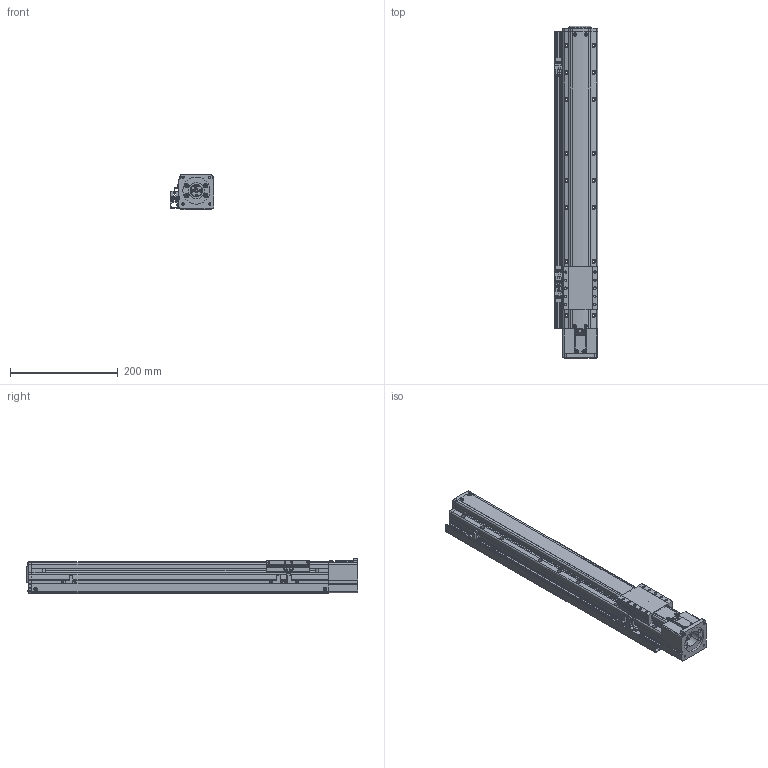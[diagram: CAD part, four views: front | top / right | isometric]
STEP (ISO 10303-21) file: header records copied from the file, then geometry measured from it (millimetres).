
FILE_DESCRIPTION(('STEP AP214'),'1');
FILE_NAME('Z:/Web/3D/PSA65/STP/PSA65-400 (3D)/PSA65ㅁㅁ-400S+3SL.stp','2014-06-25T04:53:19',(' '),(' '),'Spatial InterOp 3D',' ',' ');
FILE_SCHEMA(('automotive_design'));
Length unit declared in the file: millimetre
Products named in the file (98): SLIDE; RRCV-PA060; 1; 2; 3; 4; 5; 6; 7; 8; 9; 10; 11; 12; 13; 14; 15; 16; 17; 18; 19; 20; 21; 22; 23; 24; 25; 26; 27; 28; 29; 30; 31; 스크루 : Round - M3.0 x 8.0; RN8 x 0.75; SHAFT-SAN65; BASE; 스크루 : Round - M3.0 x 6.0; MTHZ - PSA65-60A; CPLCV-SAN45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
Bounding box: 81 x 614.8 x 65 mm (x, y, z)
Volume: 1953282.8 mm3; surface area: 345239.7 mm2
Topology: 98 solids, 98 shells, 2865 faces, 7553 edges, 4867 vertices
Faces by surface type: plane 1571, cylinder 860, cone 341, sphere 50, bspline 23, torus 20
Entity records: 114852 total; most frequent: CARTESIAN_POINT 18023, DIRECTION 15553, ORIENTED_EDGE 14862, EDGE_CURVE 7431, AXIS2_PLACEMENT_3D 5375, VERTEX_POINT 4867, LINE 4803, VECTOR 4803
